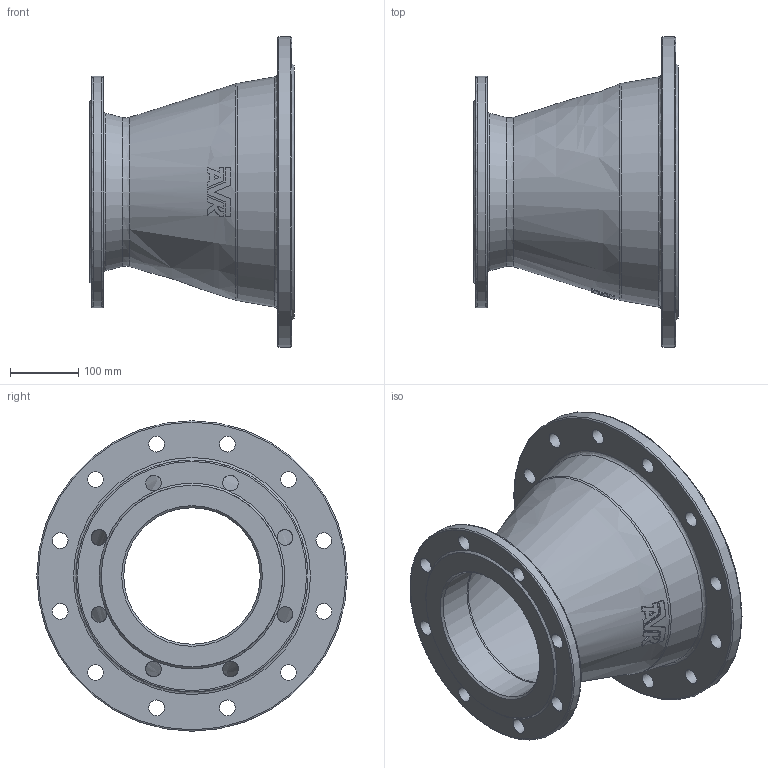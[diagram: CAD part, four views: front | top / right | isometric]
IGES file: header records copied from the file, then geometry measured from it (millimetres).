
Start section: SolidWorks IGES file using analytic representation for surfaces
Global section: file name: \\avksan2\techshare\PBM outline export from Enovia\O_712_2210_DN300_DN200_0X_REV01.igs; native system: SolidWorks 2022; preprocessor: SolidWorks 2022; author: pbm; date: 240808.075640; units: millimetre
Bounding box: 300 x 455 x 455 mm (x, y, z)
Surface area: 800808.2 mm2 (no closed solid volume)
Topology: 0 solids, 0 shells, 89 faces, 493 edges, 443 vertices
Faces by surface type: revolution 48, bspline 41
